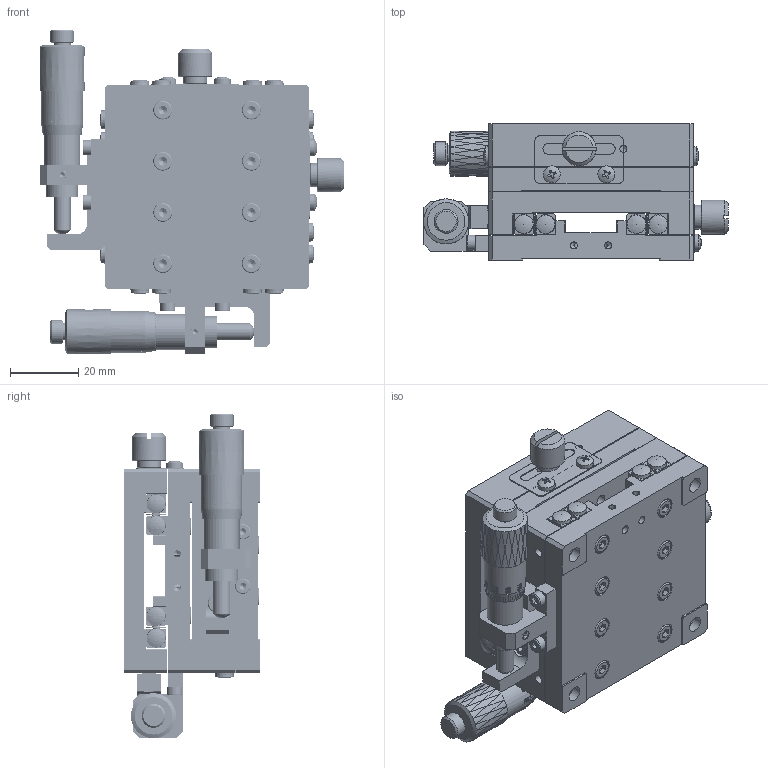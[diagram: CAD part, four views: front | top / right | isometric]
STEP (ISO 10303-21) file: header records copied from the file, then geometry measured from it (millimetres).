
FILE_DESCRIPTION (( 'STEP AP203' ), '1' );
FILE_NAME ('BPB60.STEP', '2024-07-23T12:53:39', ( 'Windows User' ), ( 'P R C' ), 'SwSTEP 2.0', 'SolidWorks 2024', '' );
FILE_SCHEMA (( 'CONFIG_CONTROL_DESIGN' ));
Products named in the file (1): BPB60
Bounding box: 89.4 x 40 x 95.2 mm (x, y, z)
Volume: 131618.8 mm3; surface area: 86219.4 mm2
Topology: 74 solids, 74 shells, 3740 faces, 9290 edges, 5962 vertices
Faces by surface type: plane 1718, bspline 806, cylinder 678, cone 492, torus 40, sphere 6
Full cylindrical faces by diameter (mm): 2 x44, 2.05 x24, 2.5 x38, 2.55 x32, 2.95 x18, 3 x42, 3.1 x4, 3.2 x4, 3.3 x16, 3.4 x32, 4.4 x32, 4.5 x12, 5 x10, 5.5 x36, 5.8 x4, 6 x32, 7 x4, 8 x8, 8.5 x2, 9.5 x4, 10 x2, 10.5 x2, 12.2 x2, 15 x2
Entity records: 169037 total; most frequent: CARTESIAN_POINT 91879, ORIENTED_EDGE 16544, DIRECTION 12716, EDGE_CURVE 8272, VERTEX_POINT 5710, EDGE_LOOP 5178, AXIS2_PLACEMENT_3D 4683, FACE_OUTER_BOUND 4156
